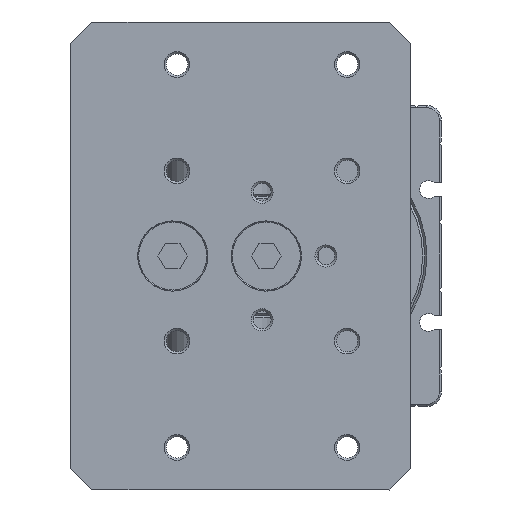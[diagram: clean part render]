
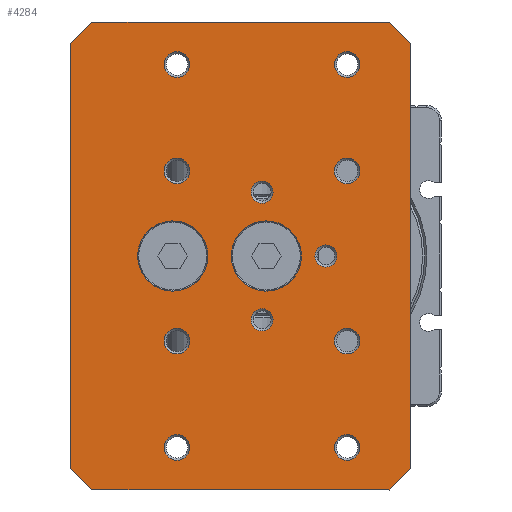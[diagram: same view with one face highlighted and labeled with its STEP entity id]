
A CAD part, front view. The second image highlights one B-rep face of the part: STEP entity #4284.
In plain terms, the highlighted planar face has unit normal (0, -1, 0).
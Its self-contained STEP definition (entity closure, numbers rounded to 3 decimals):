
#189=ELLIPSE('',#35594,8.25,8.25);
#190=ELLIPSE('',#35595,8.25,8.25);
#536=B_SPLINE_CURVE_WITH_KNOTS('',3,(#56934,#56935,#56936,#56937,#56938,
#56939,#56940,#56941,#56942,#56943),.UNSPECIFIED.,.F.,.F.,(4,2,2,2,4),(0.,
0.25,0.5,0.75,1.),.UNSPECIFIED.);
#4284=ADVANCED_FACE('',(#13473,#13474,#13475,#13476,#13477,#13478,#13479,
#13480,#13481,#13482,#13483,#13484,#13485,#13486),#5630,.F.);
#5630=PLANE('',#35596);
#9357=LINE('',#56756,#13113);
#9361=LINE('',#56765,#13117);
#9364=LINE('',#56771,#13120);
#9367=LINE('',#56777,#13123);
#9370=LINE('',#56783,#13126);
#9373=LINE('',#56789,#13129);
#9376=LINE('',#56795,#13132);
#9379=LINE('',#56851,#13135);
#13113=VECTOR('',#43865,1.);
#13117=VECTOR('',#43871,1.);
#13120=VECTOR('',#43876,1.);
#13123=VECTOR('',#43881,1.);
#13126=VECTOR('',#43886,1.);
#13129=VECTOR('',#43891,1.);
#13132=VECTOR('',#43896,1.);
#13135=VECTOR('',#43961,1.);
#13473=FACE_BOUND('',#15433,.T.);
#13474=FACE_BOUND('',#15434,.T.);
#13475=FACE_BOUND('',#15435,.T.);
#13476=FACE_BOUND('',#15436,.T.);
#13477=FACE_BOUND('',#15437,.T.);
#13478=FACE_BOUND('',#15438,.T.);
#13479=FACE_BOUND('',#15439,.T.);
#13480=FACE_BOUND('',#15440,.T.);
#13481=FACE_BOUND('',#15441,.T.);
#13482=FACE_BOUND('',#15442,.T.);
#13483=FACE_BOUND('',#15443,.T.);
#13484=FACE_BOUND('',#15444,.T.);
#13485=FACE_BOUND('',#15445,.T.);
#13486=FACE_BOUND('',#15446,.T.);
#15433=EDGE_LOOP('',(#24794));
#15434=EDGE_LOOP('',(#24795));
#15435=EDGE_LOOP('',(#24796));
#15436=EDGE_LOOP('',(#24797));
#15437=EDGE_LOOP('',(#24798));
#15438=EDGE_LOOP('',(#24799));
#15439=EDGE_LOOP('',(#24800));
#15440=EDGE_LOOP('',(#24801));
#15441=EDGE_LOOP('',(#24802));
#15442=EDGE_LOOP('',(#24803));
#15443=EDGE_LOOP('',(#24804));
#15444=EDGE_LOOP('',(#24805,#24806,#24807,#24808,#24809,#24810,#24811,#24812));
#15445=EDGE_LOOP('',(#24813));
#15446=EDGE_LOOP('',(#24814,#24815));
#24794=ORIENTED_EDGE('',*,*,#32697,.T.);
#24795=ORIENTED_EDGE('',*,*,#32698,.T.);
#24796=ORIENTED_EDGE('',*,*,#32699,.T.);
#24797=ORIENTED_EDGE('',*,*,#32700,.T.);
#24798=ORIENTED_EDGE('',*,*,#32701,.T.);
#24799=ORIENTED_EDGE('',*,*,#32702,.T.);
#24800=ORIENTED_EDGE('',*,*,#32703,.T.);
#24801=ORIENTED_EDGE('',*,*,#32704,.T.);
#24802=ORIENTED_EDGE('',*,*,#32705,.T.);
#24803=ORIENTED_EDGE('',*,*,#32706,.T.);
#24804=ORIENTED_EDGE('',*,*,#32707,.T.);
#24805=ORIENTED_EDGE('',*,*,#32634,.F.);
#24806=ORIENTED_EDGE('',*,*,#32676,.F.);
#24807=ORIENTED_EDGE('',*,*,#32653,.F.);
#24808=ORIENTED_EDGE('',*,*,#32650,.F.);
#24809=ORIENTED_EDGE('',*,*,#32647,.F.);
#24810=ORIENTED_EDGE('',*,*,#32644,.F.);
#24811=ORIENTED_EDGE('',*,*,#32641,.F.);
#24812=ORIENTED_EDGE('',*,*,#32638,.F.);
#24813=ORIENTED_EDGE('',*,*,#32708,.T.);
#24814=ORIENTED_EDGE('',*,*,#32709,.T.);
#24815=ORIENTED_EDGE('',*,*,#32710,.T.);
#27955=VERTEX_POINT('',#56757);
#27956=VERTEX_POINT('',#56758);
#27959=VERTEX_POINT('',#56766);
#27961=VERTEX_POINT('',#56772);
#27963=VERTEX_POINT('',#56778);
#27965=VERTEX_POINT('',#56784);
#27967=VERTEX_POINT('',#56790);
#27969=VERTEX_POINT('',#56796);
#28008=VERTEX_POINT('',#56911);
#28009=VERTEX_POINT('',#56913);
#28010=VERTEX_POINT('',#56915);
#28011=VERTEX_POINT('',#56917);
#28012=VERTEX_POINT('',#56919);
#28013=VERTEX_POINT('',#56921);
#28014=VERTEX_POINT('',#56923);
#28015=VERTEX_POINT('',#56925);
#28016=VERTEX_POINT('',#56927);
#28017=VERTEX_POINT('',#56929);
#28018=VERTEX_POINT('',#56931);
#28019=VERTEX_POINT('',#56933);
#28020=VERTEX_POINT('',#56944);
#28021=VERTEX_POINT('',#56945);
#32634=EDGE_CURVE('',#27955,#27956,#9357,.T.);
#32638=EDGE_CURVE('',#27956,#27959,#9361,.T.);
#32641=EDGE_CURVE('',#27959,#27961,#9364,.T.);
#32644=EDGE_CURVE('',#27961,#27963,#9367,.T.);
#32647=EDGE_CURVE('',#27963,#27965,#9370,.T.);
#32650=EDGE_CURVE('',#27965,#27967,#9373,.T.);
#32653=EDGE_CURVE('',#27967,#27969,#9376,.T.);
#32676=EDGE_CURVE('',#27969,#27955,#9379,.T.);
#32697=EDGE_CURVE('',#28008,#28008,#33259,.T.);
#32698=EDGE_CURVE('',#28009,#28009,#33260,.T.);
#32699=EDGE_CURVE('',#28010,#28010,#33261,.T.);
#32700=EDGE_CURVE('',#28011,#28011,#33262,.T.);
#32701=EDGE_CURVE('',#28012,#28012,#33263,.T.);
#32702=EDGE_CURVE('',#28013,#28013,#33264,.T.);
#32703=EDGE_CURVE('',#28014,#28014,#33265,.T.);
#32704=EDGE_CURVE('',#28015,#28015,#33266,.T.);
#32705=EDGE_CURVE('',#28016,#28016,#33267,.T.);
#32706=EDGE_CURVE('',#28017,#28017,#33268,.T.);
#32707=EDGE_CURVE('',#28018,#28018,#33269,.T.);
#32708=EDGE_CURVE('',#28019,#28019,#189,.T.);
#32709=EDGE_CURVE('',#28020,#28021,#536,.T.);
#32710=EDGE_CURVE('',#28021,#28020,#190,.T.);
#33259=CIRCLE('',#35583,3.);
#33260=CIRCLE('',#35584,3.);
#33261=CIRCLE('',#35585,3.);
#33262=CIRCLE('',#35586,2.6);
#33263=CIRCLE('',#35587,3.);
#33264=CIRCLE('',#35588,3.);
#33265=CIRCLE('',#35589,2.6);
#33266=CIRCLE('',#35590,3.);
#33267=CIRCLE('',#35591,2.6);
#33268=CIRCLE('',#35592,3.);
#33269=CIRCLE('',#35593,3.);
#35583=AXIS2_PLACEMENT_3D('',#56910,#44003,#44004);
#35584=AXIS2_PLACEMENT_3D('',#56912,#44005,#44006);
#35585=AXIS2_PLACEMENT_3D('',#56914,#44007,#44008);
#35586=AXIS2_PLACEMENT_3D('',#56916,#44009,#44010);
#35587=AXIS2_PLACEMENT_3D('',#56918,#44011,#44012);
#35588=AXIS2_PLACEMENT_3D('',#56920,#44013,#44014);
#35589=AXIS2_PLACEMENT_3D('',#56922,#44015,#44016);
#35590=AXIS2_PLACEMENT_3D('',#56924,#44017,#44018);
#35591=AXIS2_PLACEMENT_3D('',#56926,#44019,#44020);
#35592=AXIS2_PLACEMENT_3D('',#56928,#44021,#44022);
#35593=AXIS2_PLACEMENT_3D('',#56930,#44023,#44024);
#35594=AXIS2_PLACEMENT_3D('',#56932,#44025,#44026);
#35595=AXIS2_PLACEMENT_3D('',#56946,#44027,#44028);
#35596=AXIS2_PLACEMENT_3D('',#56947,#44029,#44030);
#43865=DIRECTION('',(0.707,0.,0.707));
#43871=DIRECTION('',(1.,0.,0.));
#43876=DIRECTION('',(0.707,0.,-0.707));
#43881=DIRECTION('',(0.,0.,-1.));
#43886=DIRECTION('',(-0.707,0.,-0.707));
#43891=DIRECTION('',(-1.,0.,0.));
#43896=DIRECTION('',(-0.707,0.,0.707));
#43961=DIRECTION('',(0.,0.,1.));
#44003=DIRECTION('',(0.,1.,0.));
#44004=DIRECTION('',(0.,0.,1.));
#44005=DIRECTION('',(0.,1.,0.));
#44006=DIRECTION('',(0.,0.,1.));
#44007=DIRECTION('',(0.,1.,0.));
#44008=DIRECTION('',(0.,0.,1.));
#44009=DIRECTION('',(0.,1.,0.));
#44010=DIRECTION('',(0.,0.,1.));
#44011=DIRECTION('',(0.,1.,0.));
#44012=DIRECTION('',(0.,0.,1.));
#44013=DIRECTION('',(0.,1.,0.));
#44014=DIRECTION('',(0.,0.,1.));
#44015=DIRECTION('',(0.,1.,0.));
#44016=DIRECTION('',(0.,0.,1.));
#44017=DIRECTION('',(0.,1.,0.));
#44018=DIRECTION('',(0.,0.,1.));
#44019=DIRECTION('',(0.,1.,0.));
#44020=DIRECTION('',(0.,0.,1.));
#44021=DIRECTION('',(0.,1.,0.));
#44022=DIRECTION('',(0.,0.,1.));
#44023=DIRECTION('',(0.,1.,0.));
#44024=DIRECTION('',(0.,0.,1.));
#44025=DIRECTION('',(0.,1.,0.));
#44026=DIRECTION('',(0.,0.,-1.));
#44027=DIRECTION('',(0.,1.,0.));
#44028=DIRECTION('',(0.,0.,-1.));
#44029=DIRECTION('',(0.,1.,0.));
#44030=DIRECTION('',(1.,0.,0.));
#56756=CARTESIAN_POINT('',(-25.241,-92.,11.001));
#56757=CARTESIAN_POINT('',(-25.241,-92.,11.001));
#56758=CARTESIAN_POINT('',(-20.241,-92.,16.001));
#56765=CARTESIAN_POINT('',(-20.241,-92.,16.001));
#56766=CARTESIAN_POINT('',(49.759,-92.,16.));
#56771=CARTESIAN_POINT('',(49.759,-92.,16.));
#56772=CARTESIAN_POINT('',(54.759,-92.,11.));
#56777=CARTESIAN_POINT('',(54.759,-92.,11.));
#56778=CARTESIAN_POINT('',(54.758,-92.,-89.));
#56783=CARTESIAN_POINT('',(54.758,-92.,-89.));
#56784=CARTESIAN_POINT('',(49.758,-92.,-94.));
#56789=CARTESIAN_POINT('',(49.758,-92.,-94.));
#56790=CARTESIAN_POINT('',(-20.242,-92.,-93.999));
#56795=CARTESIAN_POINT('',(-20.242,-92.,-93.999));
#56796=CARTESIAN_POINT('',(-25.242,-92.,-88.999));
#56851=CARTESIAN_POINT('',(-25.242,-92.,-88.999));
#56910=CARTESIAN_POINT('',(39.759,-92.,-84.));
#56911=CARTESIAN_POINT('',(39.759,-92.,-81.));
#56912=CARTESIAN_POINT('',(-0.241,-92.,-84.));
#56913=CARTESIAN_POINT('',(-0.241,-92.,-81.));
#56914=CARTESIAN_POINT('',(-0.242,-92.,-59.));
#56915=CARTESIAN_POINT('',(-0.242,-92.,-56.));
#56916=CARTESIAN_POINT('',(19.758,-92.,-54.));
#56917=CARTESIAN_POINT('',(19.758,-92.,-51.4));
#56918=CARTESIAN_POINT('',(-0.242,-92.,-18.999));
#56919=CARTESIAN_POINT('',(-0.242,-92.,-15.999));
#56920=CARTESIAN_POINT('',(-0.241,-92.,6.001));
#56921=CARTESIAN_POINT('',(-0.241,-92.,9.001));
#56922=CARTESIAN_POINT('',(19.758,-92.,-23.999));
#56923=CARTESIAN_POINT('',(19.758,-92.,-21.399));
#56924=CARTESIAN_POINT('',(39.758,-92.,-59.));
#56925=CARTESIAN_POINT('',(39.758,-92.,-56.));
#56926=CARTESIAN_POINT('',(34.758,-92.,-39.));
#56927=CARTESIAN_POINT('',(34.758,-92.,-36.4));
#56928=CARTESIAN_POINT('',(39.758,-92.,-19.));
#56929=CARTESIAN_POINT('',(39.758,-92.,-16.));
#56930=CARTESIAN_POINT('',(39.759,-92.,6.));
#56931=CARTESIAN_POINT('',(39.759,-92.,9.));
#56932=CARTESIAN_POINT('',(-1.233,-92.,-39.));
#56933=CARTESIAN_POINT('',(-1.233,-92.,-47.25));
#56934=CARTESIAN_POINT('',(29.,-92.,-39.));
#56935=CARTESIAN_POINT('',(29.,-92.,-41.163));
#56936=CARTESIAN_POINT('',(28.11,-92.,-43.307));
#56937=CARTESIAN_POINT('',(25.057,-92.,-46.36));
#56938=CARTESIAN_POINT('',(22.909,-92.,-47.25));
#56939=CARTESIAN_POINT('',(18.591,-92.,-47.25));
#56940=CARTESIAN_POINT('',(16.443,-92.,-46.36));
#56941=CARTESIAN_POINT('',(13.39,-92.,-43.307));
#56942=CARTESIAN_POINT('',(12.5,-92.,-41.166));
#56943=CARTESIAN_POINT('',(12.5,-92.,-39.));
#56944=CARTESIAN_POINT('',(29.,-92.,-39.));
#56945=CARTESIAN_POINT('',(12.5,-92.,-39.));
#56946=CARTESIAN_POINT('',(20.75,-92.,-39.));
#56947=CARTESIAN_POINT('',(-1.242,-92.,-39.));
